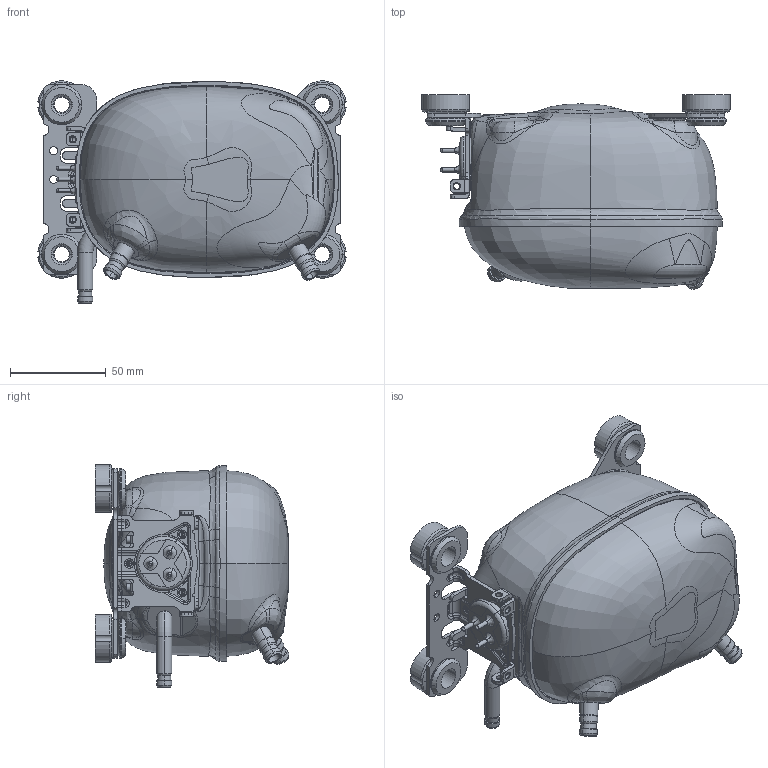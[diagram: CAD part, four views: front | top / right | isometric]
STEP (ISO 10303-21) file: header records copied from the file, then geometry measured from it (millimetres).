
FILE_DESCRIPTION((''),'2;1');
FILE_NAME('101B0020_101B0160_NONE_ASM','2018-11-13T',('CN6198'),(''),'CREO PARAMETRIC BY PTC INC, 2015380','CREO PARAMETRIC BY PTC INC, 2015380','');
FILE_SCHEMA(('CONFIG_CONTROL_DESIGN'));
Products named in the file (24): 101B0014_SKEL; 101B0402; 101B0651; 101B0510; 101B0509; 101B0601; 101B0618; 101B0627; 101B6007; 101B0628; 101B0629; 101B0020_ASM; 117-3617_BODY; 117-3632_PINS; 117-3617_GLASS_FUSED; 117-3632_ASM; 118-3661; 101B0813_BEND; 101B0158; 101B0313_AF0; 101B0609; 101B0816; 101B0160_ASM; 101B0020_101B0160_NONE_ASM
Assembly tree (34 placements, depth 3):
  101B0020_101B0160_NONE_ASM
    101B0020_ASM
      101B0014_SKEL
      101B0402
      101B0651  x4
      101B0510
      101B0509
      101B0601
      101B0618
      101B0627
      101B6007
      101B0628
      101B0629
    117-3632_ASM
      117-3617_BODY
      117-3632_PINS  x3
      117-3617_GLASS_FUSED  x3
    118-3661  x4
    101B0813_BEND
    101B0160_ASM
      101B0158
      101B0313_AF0
      101B0609
      101B0816  x2
Bounding box: 160.78 x 101.23 x 116.02 mm (x, y, z)
Volume: 162782.7 mm3; surface area: 138275.6 mm2
Topology: 29 solids, 29 shells, 1582 faces, 3760 edges, 2238 vertices
Faces by surface type: bspline 472, cylinder 399, plane 318, torus 174, cone 156, sphere 32, revolution 16, extrusion 15
Entity records: 93444 total; most frequent: CARTESIAN_POINT 63448, ORIENTED_EDGE 6620, DIRECTION 5642, EDGE_CURVE 3310, AXIS2_PLACEMENT_3D 2322, VERTEX_POINT 1999, EDGE_LOOP 1475, FACE_OUTER_BOUND 1382
